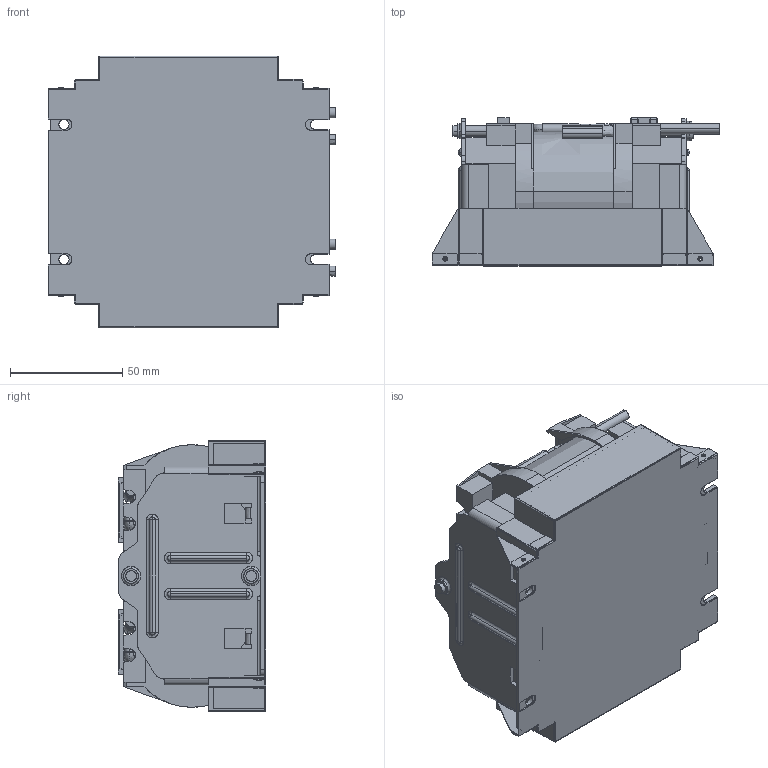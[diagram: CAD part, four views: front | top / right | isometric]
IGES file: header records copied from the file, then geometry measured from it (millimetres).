
Start section: SolidWorks IGES file using analytic representation for surfaces
Global section: file name: 34H\\10.106.230.1\R&D File\05_COMP\02_Mechanical\10_Others\PV_RT 81\网络用3D模型\半灌封模型\5KW_G_ACL\SF13231B-GM00DS20R(M-5KW_ACL-G).IGS; native system: SolidWorks 2009; preprocessor: SolidWorks 2009; author: Administrator; date: 120508.170555; units: millimetre
Bounding box: 128 x 65.75 x 121 mm (x, y, z)
Surface area: 194518.4 mm2 (no closed solid volume)
Topology: 0 solids, 0 shells, 1205 faces, 9577 edges, 9554 vertices
Faces by surface type: bspline 801, revolution 404
